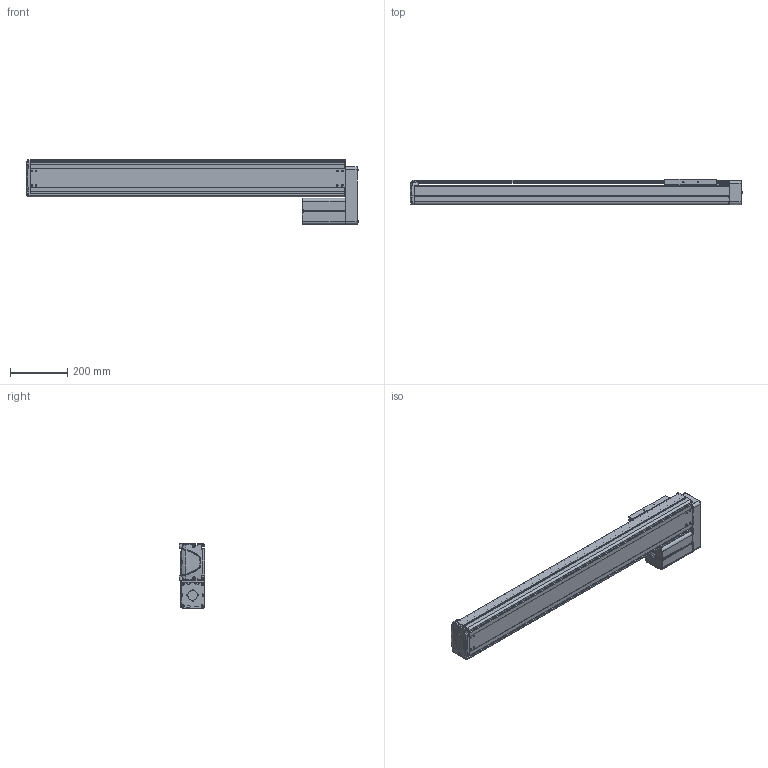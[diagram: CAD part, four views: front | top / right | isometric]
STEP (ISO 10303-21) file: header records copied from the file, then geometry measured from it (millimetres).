
FILE_DESCRIPTION((''),'2;1');
FILE_NAME('BE30E-UL-L_N-85_IGS_PRT','2017-06-17T',(' '),(''),'PRO/ENGINEER BY PARAMETRIC TECHNOLOGY CORPORATION, 2015030','PRO/ENGINEER BY PARAMETRIC TECHNOLOGY CORPORATION, 2015030','');
FILE_SCHEMA(('CONFIG_CONTROL_DESIGN'));
Length unit declared in the file: millimetre
Products named in the file (1): BE30E-UL-L_N-85_IGS_PRT
Bounding box: 1161.9 x 89.8 x 227 mm (x, y, z)
Volume: 3881354.5 mm3; surface area: 1645327.4 mm2
Topology: 2 solids, 129 shells, 2065 faces, 5579 edges, 3629 vertices
Faces by surface type: plane 1000, cylinder 875, cone 101, torus 37, bspline 28, sphere 24
Entity records: 67048 total; most frequent: CARTESIAN_POINT 14232, DIRECTION 11165, ORIENTED_EDGE 10599, EDGE_CURVE 5541, AXIS2_PLACEMENT_3D 3948, VERTEX_POINT 3629, VECTOR 3269, LINE 3269
